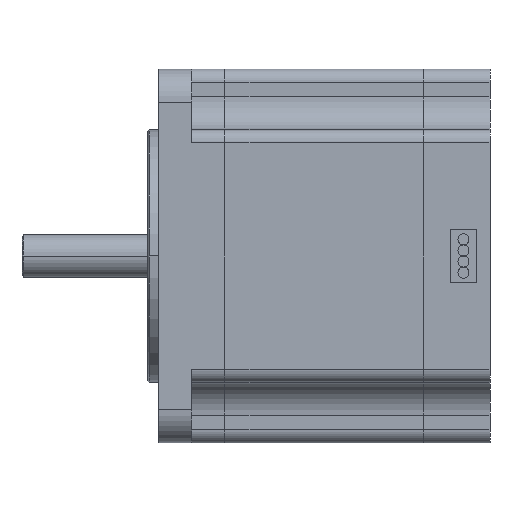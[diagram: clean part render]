
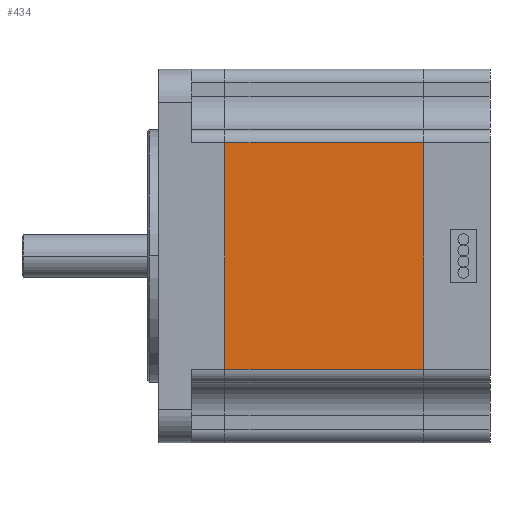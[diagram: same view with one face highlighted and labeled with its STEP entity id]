
A CAD part, front view. The second image highlights one B-rep face of the part: STEP entity #434.
In plain terms, the highlighted planar face has unit normal (0, -1, 0).
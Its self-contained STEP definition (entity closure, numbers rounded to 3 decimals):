
#50 = EDGE_CURVE ( 'NONE', #7375, #2062, #199, .T. ) ;
#149 = VECTOR ( 'NONE', #9778, 1000. ) ;
#199 = LINE ( 'NONE', #9328, #2784 ) ;
#346 = DIRECTION ( 'NONE',  ( 0., 0., 1. ) ) ;
#434 = ADVANCED_FACE ( 'NONE', ( #2016 ), #1407, .F. ) ;
#724 = CARTESIAN_POINT ( 'NONE',  ( 39.99, -28.2, -17.05 ) ) ;
#1407 = PLANE ( 'NONE',  #5370 ) ;
#1473 = DIRECTION ( 'NONE',  ( -1., 0., 0. ) ) ;
#1507 = DIRECTION ( 'NONE',  ( 0., 0., -1. ) ) ;
#1524 = VECTOR ( 'NONE', #2445, 1000. ) ;
#1885 = CARTESIAN_POINT ( 'NONE',  ( 39.99, -28.2, 17.05 ) ) ;
#2016 = FACE_OUTER_BOUND ( 'NONE', #5253, .T. ) ;
#2043 = CARTESIAN_POINT ( 'NONE',  ( 39.99, -28.2, 17.05 ) ) ;
#2062 = VERTEX_POINT ( 'NONE', #724 ) ;
#2192 = VERTEX_POINT ( 'NONE', #9610 ) ;
#2445 = DIRECTION ( 'NONE',  ( 0., 0., -1. ) ) ;
#2784 = VECTOR ( 'NONE', #1507, 1000. ) ;
#3280 = ORIENTED_EDGE ( 'NONE', *, *, #3614, .T. ) ;
#3614 = EDGE_CURVE ( 'NONE', #7375, #2192, #4558, .T. ) ;
#4558 = LINE ( 'NONE', #1885, #149 ) ;
#4788 = VERTEX_POINT ( 'NONE', #10675 ) ;
#5253 = EDGE_LOOP ( 'NONE', ( #8301, #6463, #5304, #3280 ) ) ;
#5304 = ORIENTED_EDGE ( 'NONE', *, *, #50, .F. ) ;
#5370 = AXIS2_PLACEMENT_3D ( 'NONE', #11204, #10236, #346 ) ;
#6068 = EDGE_CURVE ( 'NONE', #2192, #4788, #6993, .T. ) ;
#6463 = ORIENTED_EDGE ( 'NONE', *, *, #10425, .F. ) ;
#6993 = LINE ( 'NONE', #10169, #1524 ) ;
#7213 = CARTESIAN_POINT ( 'NONE',  ( 39.99, -28.2, -17.05 ) ) ;
#7375 = VERTEX_POINT ( 'NONE', #2043 ) ;
#8118 = VECTOR ( 'NONE', #1473, 1000. ) ;
#8301 = ORIENTED_EDGE ( 'NONE', *, *, #6068, .T. ) ;
#9328 = CARTESIAN_POINT ( 'NONE',  ( 39.99, -28.2, 17.05 ) ) ;
#9610 = CARTESIAN_POINT ( 'NONE',  ( 10.01, -28.2, 17.05 ) ) ;
#9778 = DIRECTION ( 'NONE',  ( -1., 0., 0. ) ) ;
#10169 = CARTESIAN_POINT ( 'NONE',  ( 10.01, -28.2, 17.05 ) ) ;
#10236 = DIRECTION ( 'NONE',  ( 0., 1., 0. ) ) ;
#10425 = EDGE_CURVE ( 'NONE', #2062, #4788, #11146, .T. ) ;
#10675 = CARTESIAN_POINT ( 'NONE',  ( 10.01, -28.2, -17.05 ) ) ;
#11146 = LINE ( 'NONE', #7213, #8118 ) ;
#11204 = CARTESIAN_POINT ( 'NONE',  ( 39.99, -28.2, 17.05 ) ) ;
